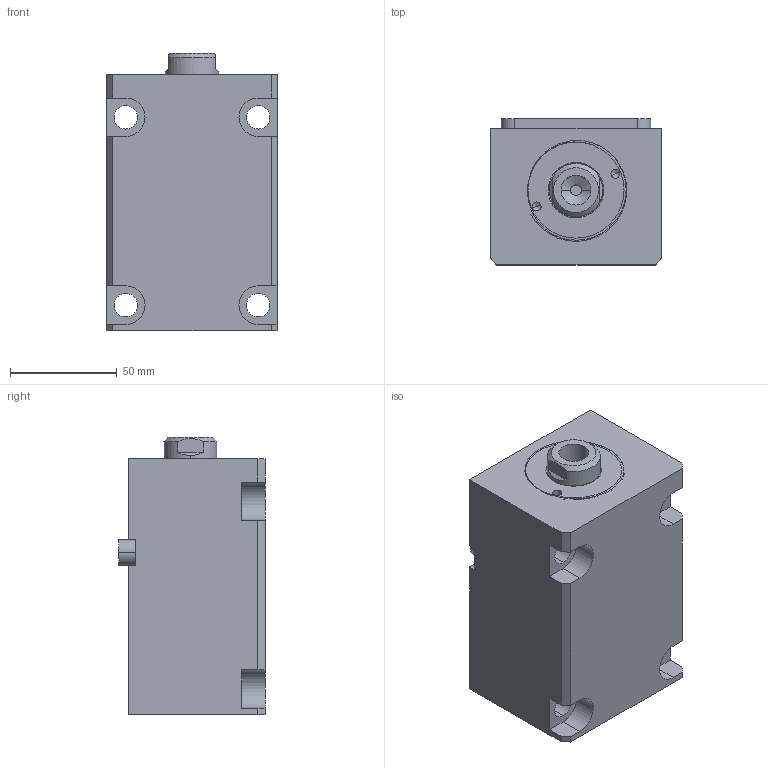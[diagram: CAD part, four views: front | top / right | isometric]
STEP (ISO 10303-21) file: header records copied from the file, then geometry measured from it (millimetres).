
FILE_DESCRIPTION (( 'STEP AP214' ), '1' );
FILE_NAME ('chtb-lam40x65n_asm.STEP', '2018-05-29T08:05:51', ( 'Windows' ), ( 'Microsoft' ), 'SwSTEP 2.0', 'SolidWorks 2015', '' );
FILE_SCHEMA (( 'AUTOMOTIVE_DESIGN' ));
Length unit declared in the file: millimetre
Products named in the file (5): CHTB-LA40PJ; CHTB-SD40X65NHSG; CHTB-SD40QG; CHTB-LAM40X65NBT; chtb-lam40x65n_asm
Assembly tree (4 placements, depth 2):
  chtb-lam40x65n_asm
    CHTB-LAM40X65NBT
    CHTB-SD40QG
    CHTB-SD40X65NHSG
    CHTB-LA40PJ
Bounding box: 80 x 68.5 x 130 mm (x, y, z)
Volume: 528172.1 mm3; surface area: 96449.1 mm2
Topology: 4 solids, 4 shells, 154 faces, 418 edges, 278 vertices
Faces by surface type: cylinder 73, plane 46, bspline 14, torus 12, cone 9
Entity records: 10092 total; most frequent: CARTESIAN_POINT 6074, ORIENTED_EDGE 824, DIRECTION 755, EDGE_CURVE 412, AXIS2_PLACEMENT_3D 300, VERTEX_POINT 278, EDGE_LOOP 180, VECTOR 155
